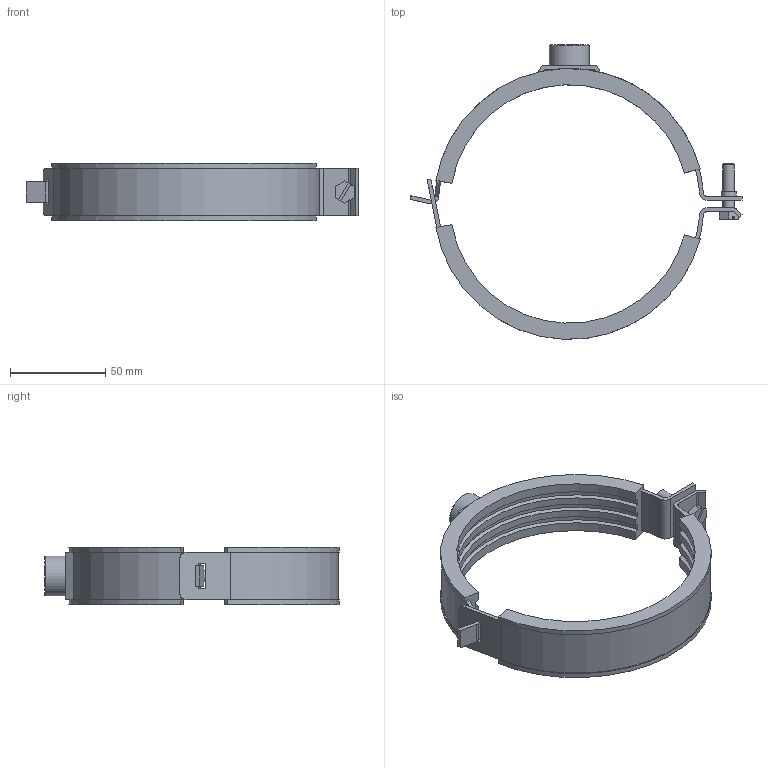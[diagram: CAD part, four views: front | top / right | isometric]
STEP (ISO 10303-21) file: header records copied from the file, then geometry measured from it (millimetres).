
FILE_DESCRIPTION(/* description */ (''),/* implementation_level */ '2;1');
FILE_NAME(/* name */ 'H:\Geberit-Teile\Export\Rohrschelle gedämmt ART\stp\312812.stp',/* time_stamp */ '2014-04-15T15:32:00+02:00',/* author */ ('seihe2'),/* organization */ (''),/* preprocessor_version */ 'ST-DEVELOPER v15.2',/* originating_system */ 'Autodesk Inventor 2014',/* authorisation */ '');
FILE_SCHEMA (('AUTOMOTIVE_DESIGN { 1 0 10303 214 3 1 1 }'));
Length unit declared in the file: millimetre
Products named in the file (1): 312812
Bounding box: 174 x 154.43 x 30 mm (x, y, z)
Volume: 89682.1 mm3; surface area: 41743.1 mm2
Topology: 1 solids, 1 shells, 135 faces, 378 edges, 244 vertices
Faces by surface type: plane 77, cylinder 44, cone 14
Full cylindrical faces by diameter (mm): 6 x2, 7.75 x1, 10 x1, 20.95 x1
Entity records: 4478 total; most frequent: CARTESIAN_POINT 758, DIRECTION 757, ORIENTED_EDGE 740, EDGE_CURVE 370, LINE 253, VECTOR 253, AXIS2_PLACEMENT_3D 252, VERTEX_POINT 243
